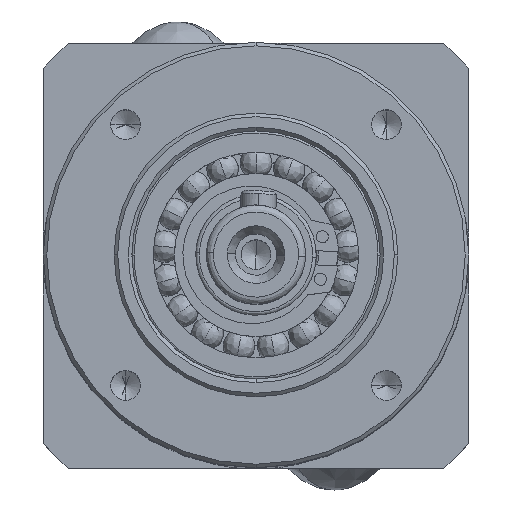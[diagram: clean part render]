
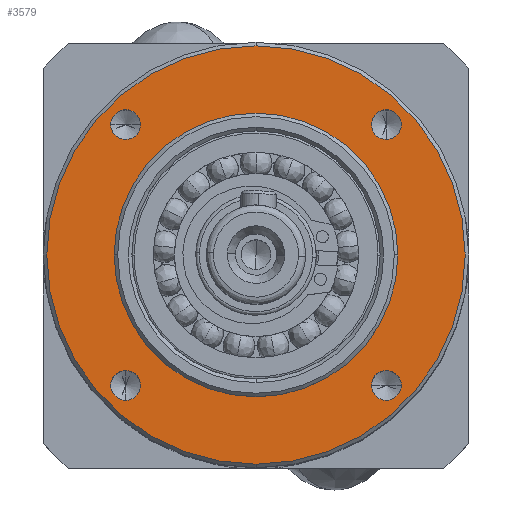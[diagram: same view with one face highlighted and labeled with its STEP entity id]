
A CAD part, top view. The second image highlights one B-rep face of the part: STEP entity #3579.
In plain terms, the highlighted planar face has unit normal (0, 0, 1) as drawn and (1, 0, 0) by its records, which use the part's own axes.
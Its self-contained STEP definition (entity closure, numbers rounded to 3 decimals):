
#51 = DIRECTION ( 'NONE',  ( 0., 0., 1. ) ) ;
#506 = CARTESIAN_POINT ( 'NONE',  ( 25., 0., 0. ) ) ;
#546 = DIRECTION ( 'NONE',  ( 1., 0., 0. ) ) ;
#1819 = EDGE_CURVE ( 'NONE', #2711, #2911, #10170, .T. ) ;
#1934 = DIRECTION ( 'NONE',  ( 1., 0., 0. ) ) ;
#2473 = FACE_OUTER_BOUND ( 'NONE', #33100, .T. ) ;
#2544 = FACE_BOUND ( 'NONE', #7690, .T. ) ;
#2616 = FACE_BOUND ( 'NONE', #20208, .T. ) ;
#2652 = FACE_BOUND ( 'NONE', #20862, .T. ) ;
#2684 = FACE_BOUND ( 'NONE', #22105, .T. ) ;
#2711 = VERTEX_POINT ( 'NONE', #5589 ) ;
#2744 = CIRCLE ( 'NONE', #11181, 2.1 ) ;
#2776 = FACE_BOUND ( 'NONE', #32688, .T. ) ;
#2868 = CARTESIAN_POINT ( 'NONE',  ( 25., 18.385, 18.385 ) ) ;
#2911 = VERTEX_POINT ( 'NONE', #34278 ) ;
#3270 = VERTEX_POINT ( 'NONE', #14793 ) ;
#3459 = VERTEX_POINT ( 'NONE', #18638 ) ;
#3579 = ADVANCED_FACE ( 'NONE', ( #2776, #2652, #2684, #2616, #2544, #2473 ), #25328, .F. ) ;
#3900 = DIRECTION ( 'NONE',  ( 1., 0., 0. ) ) ;
#4010 = CARTESIAN_POINT ( 'NONE',  ( 25., 18.385, -18.385 ) ) ;
#4155 = VERTEX_POINT ( 'NONE', #31088 ) ;
#4651 = VERTEX_POINT ( 'NONE', #25215 ) ;
#4909 = DIRECTION ( 'NONE',  ( 0., 1., 0. ) ) ;
#5137 = VERTEX_POINT ( 'NONE', #5620 ) ;
#5257 = VERTEX_POINT ( 'NONE', #8038 ) ;
#5589 = CARTESIAN_POINT ( 'NONE',  ( 25., 18.385, 16.285 ) ) ;
#5620 = CARTESIAN_POINT ( 'NONE',  ( 25., 20.485, -18.385 ) ) ;
#5655 = DIRECTION ( 'NONE',  ( 0., 0., -1. ) ) ;
#5734 = VERTEX_POINT ( 'NONE', #17505 ) ;
#5893 = VERTEX_POINT ( 'NONE', #21726 ) ;
#6644 = ORIENTED_EDGE ( 'NONE', *, *, #8118, .F. ) ;
#6676 = AXIS2_PLACEMENT_3D ( 'NONE', #28778, #28814, #28818 ) ;
#6849 = CIRCLE ( 'NONE', #33273, 2.1 ) ;
#6946 = ORIENTED_EDGE ( 'NONE', *, *, #12859, .F. ) ;
#7283 = ORIENTED_EDGE ( 'NONE', *, *, #1819, .F. ) ;
#7563 = VERTEX_POINT ( 'NONE', #19245 ) ;
#7690 = EDGE_LOOP ( 'NONE', ( #7283, #30693 ) ) ;
#7969 = AXIS2_PLACEMENT_3D ( 'NONE', #30393, #13643, #33322 ) ;
#8038 = CARTESIAN_POINT ( 'NONE',  ( 25., 16.285, -18.385 ) ) ;
#8118 = EDGE_CURVE ( 'NONE', #5893, #5734, #17681, .T. ) ;
#8138 = VERTEX_POINT ( 'NONE', #29209 ) ;
#8797 = AXIS2_PLACEMENT_3D ( 'NONE', #20349, #20539, #13433 ) ;
#9396 = DIRECTION ( 'NONE',  ( 1., 0., 0. ) ) ;
#9541 = CIRCLE ( 'NONE', #25929, 29.5 ) ;
#10170 = CIRCLE ( 'NONE', #21713, 2.1 ) ;
#11181 = AXIS2_PLACEMENT_3D ( 'NONE', #27691, #27738, #27811 ) ;
#11868 = DIRECTION ( 'NONE',  ( 1., 0., 0. ) ) ;
#12578 = EDGE_CURVE ( 'NONE', #4155, #4651, #31409, .T. ) ;
#12859 = EDGE_CURVE ( 'NONE', #5257, #5137, #32673, .T. ) ;
#13433 = DIRECTION ( 'NONE',  ( 0., 0., 1. ) ) ;
#13513 = AXIS2_PLACEMENT_3D ( 'NONE', #2868, #22209, #5655 ) ;
#13572 = ORIENTED_EDGE ( 'NONE', *, *, #12578, .F. ) ;
#13643 = DIRECTION ( 'NONE',  ( 1., 0., 0. ) ) ;
#13805 = CIRCLE ( 'NONE', #7969, 2.1 ) ;
#14141 = CARTESIAN_POINT ( 'NONE',  ( 25., 0., 0. ) ) ;
#14793 = CARTESIAN_POINT ( 'NONE',  ( 25., -16.285, 18.385 ) ) ;
#15814 = AXIS2_PLACEMENT_3D ( 'NONE', #506, #546, #51 ) ;
#16107 = CIRCLE ( 'NONE', #35170, 2.1 ) ;
#16417 = EDGE_CURVE ( 'NONE', #3459, #3270, #2744, .T. ) ;
#16891 = DIRECTION ( 'NONE',  ( 0., 0., 1. ) ) ;
#16997 = ORIENTED_EDGE ( 'NONE', *, *, #18163, .F. ) ;
#17505 = CARTESIAN_POINT ( 'NONE',  ( 25., 0., 20. ) ) ;
#17681 = CIRCLE ( 'NONE', #15814, 20. ) ;
#18163 = EDGE_CURVE ( 'NONE', #4651, #4155, #16107, .T. ) ;
#18519 = CARTESIAN_POINT ( 'NONE',  ( 25., 0., 0. ) ) ;
#18638 = CARTESIAN_POINT ( 'NONE',  ( 25., -20.485, 18.385 ) ) ;
#19245 = CARTESIAN_POINT ( 'NONE',  ( 25., 0., 29.5 ) ) ;
#19947 = CARTESIAN_POINT ( 'NONE',  ( 25., -18.385, -18.385 ) ) ;
#19998 = DIRECTION ( 'NONE',  ( 1., 0., 0. ) ) ;
#20026 = DIRECTION ( 'NONE',  ( 0., 0., -1. ) ) ;
#20208 = EDGE_LOOP ( 'NONE', ( #23700, #28761 ) ) ;
#20264 = CIRCLE ( 'NONE', #13513, 2.1 ) ;
#20349 = CARTESIAN_POINT ( 'NONE',  ( 25., -29.854, -29.854 ) ) ;
#20539 = DIRECTION ( 'NONE',  ( -1., 0., 0. ) ) ;
#20782 = AXIS2_PLACEMENT_3D ( 'NONE', #4010, #3900, #4909 ) ;
#20862 = EDGE_LOOP ( 'NONE', ( #30256, #6946 ) ) ;
#21066 = ORIENTED_EDGE ( 'NONE', *, *, #34841, .T. ) ;
#21308 = DIRECTION ( 'NONE',  ( 0., 0., 1. ) ) ;
#21713 = AXIS2_PLACEMENT_3D ( 'NONE', #32088, #32094, #32125 ) ;
#21726 = CARTESIAN_POINT ( 'NONE',  ( 25., 0., -20. ) ) ;
#22105 = EDGE_LOOP ( 'NONE', ( #13572, #16997 ) ) ;
#22209 = DIRECTION ( 'NONE',  ( 1., 0., 0. ) ) ;
#23700 = ORIENTED_EDGE ( 'NONE', *, *, #34437, .F. ) ;
#25215 = CARTESIAN_POINT ( 'NONE',  ( 25., -18.385, -16.285 ) ) ;
#25328 = PLANE ( 'NONE',  #8797 ) ;
#25911 = CARTESIAN_POINT ( 'NONE',  ( 25., -18.385, 18.385 ) ) ;
#25929 = AXIS2_PLACEMENT_3D ( 'NONE', #14141, #33815, #16891 ) ;
#25976 = AXIS2_PLACEMENT_3D ( 'NONE', #28504, #11868, #31471 ) ;
#26408 = ORIENTED_EDGE ( 'NONE', *, *, #30861, .F. ) ;
#27691 = CARTESIAN_POINT ( 'NONE',  ( 25., -18.385, 18.385 ) ) ;
#27738 = DIRECTION ( 'NONE',  ( 1., 0., 0. ) ) ;
#27811 = DIRECTION ( 'NONE',  ( 0., 1., 0. ) ) ;
#28504 = CARTESIAN_POINT ( 'NONE',  ( 25., 0., 0. ) ) ;
#28761 = ORIENTED_EDGE ( 'NONE', *, *, #16417, .F. ) ;
#28778 = CARTESIAN_POINT ( 'NONE',  ( 25., -18.385, -18.385 ) ) ;
#28797 = DIRECTION ( 'NONE',  ( 0., 1., 0. ) ) ;
#28814 = DIRECTION ( 'NONE',  ( 1., 0., 0. ) ) ;
#28818 = DIRECTION ( 'NONE',  ( 0., 0., -1. ) ) ;
#29009 = AXIS2_PLACEMENT_3D ( 'NONE', #18519, #1934, #21308 ) ;
#29209 = CARTESIAN_POINT ( 'NONE',  ( 25., 0., -29.5 ) ) ;
#29636 = CIRCLE ( 'NONE', #29009, 20. ) ;
#29770 = ORIENTED_EDGE ( 'NONE', *, *, #32725, .T. ) ;
#30256 = ORIENTED_EDGE ( 'NONE', *, *, #35213, .F. ) ;
#30393 = CARTESIAN_POINT ( 'NONE',  ( 25., 18.385, -18.385 ) ) ;
#30693 = ORIENTED_EDGE ( 'NONE', *, *, #35270, .F. ) ;
#30861 = EDGE_CURVE ( 'NONE', #5734, #5893, #29636, .T. ) ;
#31088 = CARTESIAN_POINT ( 'NONE',  ( 25., -18.385, -20.485 ) ) ;
#31409 = CIRCLE ( 'NONE', #6676, 2.1 ) ;
#31471 = DIRECTION ( 'NONE',  ( 0., 0., 1. ) ) ;
#32088 = CARTESIAN_POINT ( 'NONE',  ( 25., 18.385, 18.385 ) ) ;
#32094 = DIRECTION ( 'NONE',  ( 1., 0., 0. ) ) ;
#32125 = DIRECTION ( 'NONE',  ( 0., 0., -1. ) ) ;
#32673 = CIRCLE ( 'NONE', #20782, 2.1 ) ;
#32688 = EDGE_LOOP ( 'NONE', ( #26408, #6644 ) ) ;
#32725 = EDGE_CURVE ( 'NONE', #7563, #8138, #9541, .T. ) ;
#33100 = EDGE_LOOP ( 'NONE', ( #29770, #21066 ) ) ;
#33273 = AXIS2_PLACEMENT_3D ( 'NONE', #25911, #9396, #28797 ) ;
#33322 = DIRECTION ( 'NONE',  ( 0., 1., 0. ) ) ;
#33815 = DIRECTION ( 'NONE',  ( 1., 0., 0. ) ) ;
#34278 = CARTESIAN_POINT ( 'NONE',  ( 25., 18.385, 20.485 ) ) ;
#34437 = EDGE_CURVE ( 'NONE', #3270, #3459, #6849, .T. ) ;
#34841 = EDGE_CURVE ( 'NONE', #8138, #7563, #35288, .T. ) ;
#35170 = AXIS2_PLACEMENT_3D ( 'NONE', #19947, #19998, #20026 ) ;
#35213 = EDGE_CURVE ( 'NONE', #5137, #5257, #13805, .T. ) ;
#35270 = EDGE_CURVE ( 'NONE', #2911, #2711, #20264, .T. ) ;
#35288 = CIRCLE ( 'NONE', #25976, 29.5 ) ;
